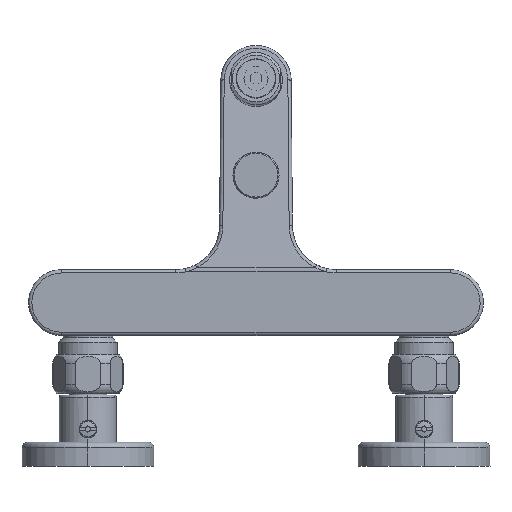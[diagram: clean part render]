
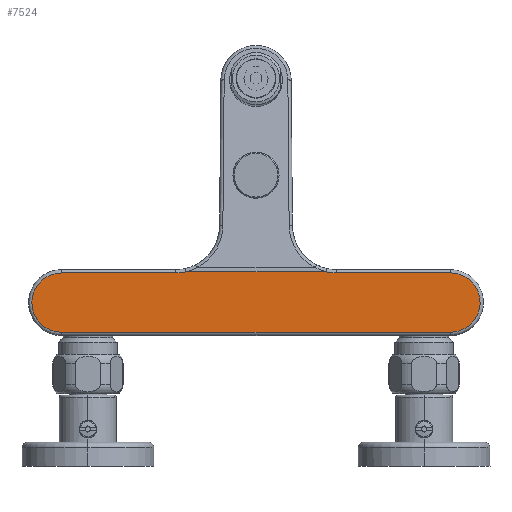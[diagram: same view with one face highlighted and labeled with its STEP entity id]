
A CAD part, front view. The second image highlights one B-rep face of the part: STEP entity #7524.
In plain terms, the highlighted planar face has unit normal (0, -1, 0).
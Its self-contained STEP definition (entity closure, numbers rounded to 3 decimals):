
#1411=CARTESIAN_POINT('',(88.5,-19.,-6.));
#1412=DIRECTION('',(0.,1.,0.));
#1413=DIRECTION('',(0.,0.,1.));
#1414=AXIS2_PLACEMENT_3D('',#1411,#1412,#1413);
#1416=CARTESIAN_POINT('',(88.5,-19.,-6.));
#1417=DIRECTION('',(0.,1.,0.));
#1418=DIRECTION('',(0.037,0.,0.999));
#1419=AXIS2_PLACEMENT_3D('',#1416,#1417,#1418);
#1421=CARTESIAN_POINT('',(-88.5,-19.,-6.));
#1422=DIRECTION('',(0.,1.,0.));
#1423=DIRECTION('',(0.,0.,-1.));
#1424=AXIS2_PLACEMENT_3D('',#1421,#1422,#1423);
#1426=CARTESIAN_POINT('',(-88.5,-19.,-6.));
#1427=DIRECTION('',(0.,1.,0.));
#1428=DIRECTION('',(-0.037,0.,-0.999));
#1429=AXIS2_PLACEMENT_3D('',#1426,#1427,#1428);
#1431=CARTESIAN_POINT('',(-36.578,-19.,29.));
#1432=DIRECTION('',(0.,-1.,0.));
#1433=DIRECTION('',(0.,0.,-1.));
#1434=AXIS2_PLACEMENT_3D('',#1431,#1432,#1433);
#1436=DIRECTION('',(1.,0.,0.));
#1437=VECTOR('',#1436,63.891);
#1438=CARTESIAN_POINT('',(-31.946,-19.,8.005));
#1439=LINE('',#1438,#1437);
#1440=CARTESIAN_POINT('',(36.578,-19.,29.));
#1441=DIRECTION('',(0.,-1.,0.));
#1442=DIRECTION('',(-0.215,0.,-0.977));
#1443=AXIS2_PLACEMENT_3D('',#1440,#1441,#1442);
#1445=DIRECTION('',(1.,0.,0.));
#1446=VECTOR('',#1445,177.);
#1447=CARTESIAN_POINT('',(-88.5,-19.,-19.5));
#1448=LINE('',#1447,#1446);
#1580=DIRECTION('',(-1.,0.,0.));
#1581=VECTOR('',#1580,51.922);
#1582=CARTESIAN_POINT('',(88.5,-19.,7.5));
#1583=LINE('',#1582,#1581);
#1638=DIRECTION('',(-1.,0.,0.));
#1639=VECTOR('',#1638,51.922);
#1640=CARTESIAN_POINT('',(-36.578,-19.,7.5));
#1641=LINE('',#1640,#1639);
#5213=CARTESIAN_POINT('',(89.001,-19.,7.491));
#5214=CARTESIAN_POINT('',(88.5,-19.,-19.5));
#5215=VERTEX_POINT('',#5213);
#5216=VERTEX_POINT('',#5214);
#5217=CARTESIAN_POINT('',(88.5,-19.,7.5));
#5218=VERTEX_POINT('',#5217);
#5219=CARTESIAN_POINT('',(-88.5,-19.,-19.5));
#5220=VERTEX_POINT('',#5219);
#5221=CARTESIAN_POINT('',(-89.001,-19.,-19.491));
#5222=VERTEX_POINT('',#5221);
#5223=CARTESIAN_POINT('',(-88.5,-19.,7.5));
#5224=VERTEX_POINT('',#5223);
#5225=CARTESIAN_POINT('',(-36.578,-19.,7.5));
#5226=VERTEX_POINT('',#5225);
#5227=CARTESIAN_POINT('',(-31.946,-19.,8.005));
#5228=VERTEX_POINT('',#5227);
#5229=CARTESIAN_POINT('',(31.946,-19.,8.005));
#5230=VERTEX_POINT('',#5229);
#5231=CARTESIAN_POINT('',(36.578,-19.,7.5));
#5232=VERTEX_POINT('',#5231);
#7499=CARTESIAN_POINT('',(0.,-19.,0.));
#7500=DIRECTION('',(0.,1.,0.));
#7501=DIRECTION('',(1.,0.,0.));
#7502=AXIS2_PLACEMENT_3D('',#7499,#7500,#7501);
#7503=PLANE('',#7502);
#7504=ORIENTED_EDGE('',*,*,#7488,.T.);
#7505=ORIENTED_EDGE('',*,*,#7486,.T.);
#7507=ORIENTED_EDGE('',*,*,#7506,.F.);
#7509=ORIENTED_EDGE('',*,*,#7508,.T.);
#7511=ORIENTED_EDGE('',*,*,#7510,.T.);
#7513=ORIENTED_EDGE('',*,*,#7512,.F.);
#7515=ORIENTED_EDGE('',*,*,#7514,.T.);
#7517=ORIENTED_EDGE('',*,*,#7516,.T.);
#7519=ORIENTED_EDGE('',*,*,#7518,.T.);
#7521=ORIENTED_EDGE('',*,*,#7520,.F.);
#7522=EDGE_LOOP('',(#7504,#7505,#7507,#7509,#7511,#7513,#7515,#7517,#7519,
#7521));
#7523=FACE_OUTER_BOUND('',#7522,.F.);
#7524=ADVANCED_FACE('',(#7523),#7503,.F.);
#1415=CIRCLE('',#1414,13.5);
#1420=CIRCLE('',#1419,13.5);
#1425=CIRCLE('',#1424,13.5);
#1430=CIRCLE('',#1429,13.5);
#1435=CIRCLE('',#1434,21.5);
#1444=CIRCLE('',#1443,21.5);
#7486=EDGE_CURVE('',#5215,#5216,#1420,.T.);
#7488=EDGE_CURVE('',#5218,#5215,#1415,.T.);
#7506=EDGE_CURVE('',#5220,#5216,#1448,.T.);
#7508=EDGE_CURVE('',#5220,#5222,#1425,.T.);
#7510=EDGE_CURVE('',#5222,#5224,#1430,.T.);
#7512=EDGE_CURVE('',#5226,#5224,#1641,.T.);
#7514=EDGE_CURVE('',#5226,#5228,#1435,.T.);
#7516=EDGE_CURVE('',#5228,#5230,#1439,.T.);
#7518=EDGE_CURVE('',#5230,#5232,#1444,.T.);
#7520=EDGE_CURVE('',#5218,#5232,#1583,.T.);
